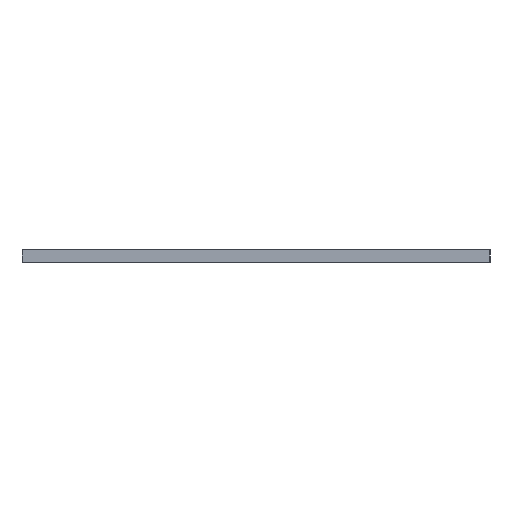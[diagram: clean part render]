
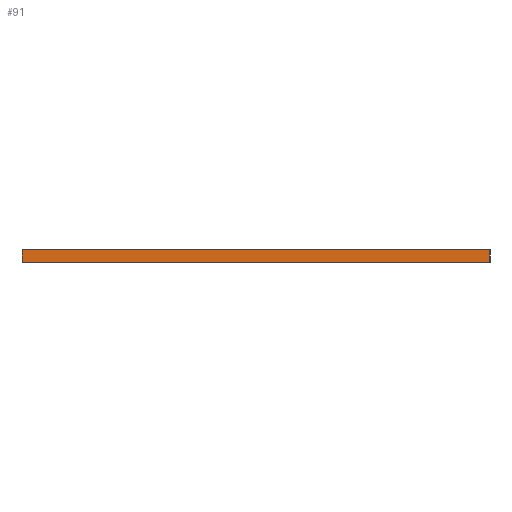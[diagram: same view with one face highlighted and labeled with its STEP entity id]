
A CAD part, left-side view. The second image highlights one B-rep face of the part: STEP entity #91.
In plain terms, the highlighted planar face has unit normal (-1, 0, 0).
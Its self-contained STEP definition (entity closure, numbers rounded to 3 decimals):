
#52=CARTESIAN_POINT('Axis2P3D Location',(-55.271,254.867,-42.55)) ;
#57=CARTESIAN_POINT('Line Origine',(-55.271,29.867,-54.55)) ;
#61=CARTESIAN_POINT('Vertex',(-55.271,254.867,-54.55)) ;
#63=CARTESIAN_POINT('Vertex',(-55.271,-195.133,-54.55)) ;
#66=CARTESIAN_POINT('Line Origine',(-55.271,-195.133,-48.55)) ;
#70=CARTESIAN_POINT('Vertex',(-55.271,-195.133,-42.55)) ;
#73=CARTESIAN_POINT('Line Origine',(-55.271,29.867,-42.55)) ;
#77=CARTESIAN_POINT('Vertex',(-55.271,254.867,-42.55)) ;
#80=CARTESIAN_POINT('Line Origine',(-55.271,254.867,-48.55)) ;
#53=DIRECTION('Axis2P3D Direction',(1.,0.,0.)) ;
#54=DIRECTION('Axis2P3D XDirection',(0.,-1.,0.)) ;
#58=DIRECTION('Vector Direction',(0.,-1.,0.)) ;
#67=DIRECTION('Vector Direction',(0.,0.,-1.)) ;
#74=DIRECTION('Vector Direction',(0.,-1.,0.)) ;
#81=DIRECTION('Vector Direction',(0.,0.,-1.)) ;
#55=AXIS2_PLACEMENT_3D('Plane Axis2P3D',#52,#53,#54) ;
#86=ORIENTED_EDGE('',*,*,#65,.T.) ;
#87=ORIENTED_EDGE('',*,*,#72,.F.) ;
#88=ORIENTED_EDGE('',*,*,#79,.F.) ;
#89=ORIENTED_EDGE('',*,*,#84,.T.) ;
#59=VECTOR('Line Direction',#58,1.) ;
#68=VECTOR('Line Direction',#67,1.) ;
#75=VECTOR('Line Direction',#74,1.) ;
#82=VECTOR('Line Direction',#81,1.) ;
#91=ADVANCED_FACE('Hauptk\X2\00F6\X0\rper',(#90),#56,.F.) ;
#65=EDGE_CURVE('',#62,#64,#60,.T.) ;
#72=EDGE_CURVE('',#71,#64,#69,.T.) ;
#79=EDGE_CURVE('',#78,#71,#76,.T.) ;
#84=EDGE_CURVE('',#78,#62,#83,.T.) ;
#85=EDGE_LOOP('',(#86,#87,#88,#89)) ;
#90=FACE_OUTER_BOUND('',#85,.T.) ;
#60=LINE('Line',#57,#59) ;
#69=LINE('Line',#66,#68) ;
#76=LINE('Line',#73,#75) ;
#83=LINE('Line',#80,#82) ;
#56=PLANE('',#55) ;
#62=VERTEX_POINT('',#61) ;
#64=VERTEX_POINT('',#63) ;
#71=VERTEX_POINT('',#70) ;
#78=VERTEX_POINT('',#77) ;
